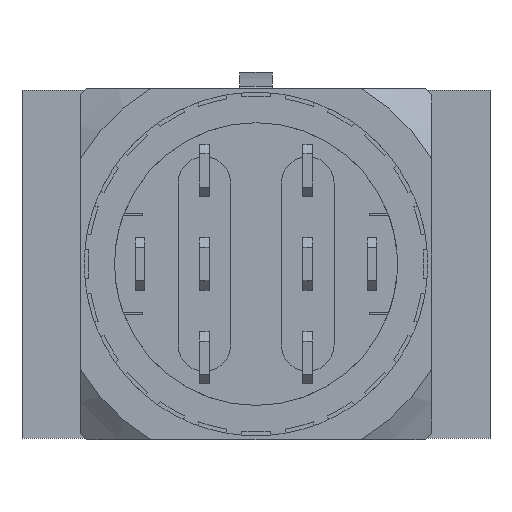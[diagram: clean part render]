
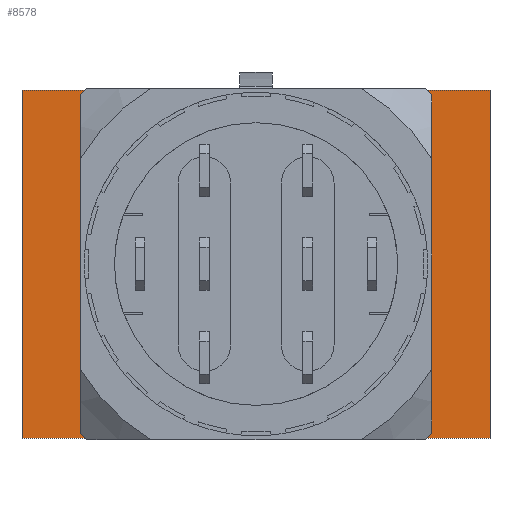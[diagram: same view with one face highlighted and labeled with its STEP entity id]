
A CAD part, front view. The second image highlights one B-rep face of the part: STEP entity #8578.
In plain terms, the highlighted planar face has unit normal (0, -1, 0).
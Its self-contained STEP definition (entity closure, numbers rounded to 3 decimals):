
#2 = CIRCLE ( 'NONE', #9218, 8.65 ) ;
#158 = CIRCLE ( 'NONE', #9079, 8.65 ) ;
#387 = EDGE_CURVE ( 'NONE', #1235, #1215, #3080, .T. ) ;
#389 = EDGE_CURVE ( 'NONE', #1275, #1235, #3086, .T. ) ;
#392 = EDGE_CURVE ( 'NONE', #1216, #1275, #3095, .T. ) ;
#396 = EDGE_CURVE ( 'NONE', #1215, #1216, #3107, .T. ) ;
#433 = EDGE_CURVE ( 'NONE', #1270, #1334, #158, .T. ) ;
#1215 = VERTEX_POINT ( 'NONE', #3628 ) ;
#1216 = VERTEX_POINT ( 'NONE', #3629 ) ;
#1235 = VERTEX_POINT ( 'NONE', #3648 ) ;
#1270 = VERTEX_POINT ( 'NONE', #3683 ) ;
#1275 = VERTEX_POINT ( 'NONE', #3688 ) ;
#1334 = VERTEX_POINT ( 'NONE', #3747 ) ;
#1920 = ORIENTED_EDGE ( 'NONE', *, *, #392, .F. ) ;
#1921 = ORIENTED_EDGE ( 'NONE', *, *, #433, .T. ) ;
#1922 = ORIENTED_EDGE ( 'NONE', *, *, #7024, .T. ) ;
#1923 = ORIENTED_EDGE ( 'NONE', *, *, #396, .F. ) ;
#1924 = ORIENTED_EDGE ( 'NONE', *, *, #387, .F. ) ;
#1925 = ORIENTED_EDGE ( 'NONE', *, *, #389, .F. ) ;
#3080 = LINE ( 'NONE', #3081, #9148 ) ;
#3081 = CARTESIAN_POINT ( 'NONE',  ( -12., 18., 8.925 ) ) ;
#3082 = DIRECTION ( 'NONE',  ( 1., 0., 0. ) ) ;
#3086 = LINE ( 'NONE', #3087, #9149 ) ;
#3087 = CARTESIAN_POINT ( 'NONE',  ( -12., 18., 8.925 ) ) ;
#3088 = DIRECTION ( 'NONE',  ( 0., 0., 1. ) ) ;
#3095 = LINE ( 'NONE', #3096, #9022 ) ;
#3096 = CARTESIAN_POINT ( 'NONE',  ( -12., 18., -8.925 ) ) ;
#3097 = DIRECTION ( 'NONE',  ( -1., 0., 0. ) ) ;
#3107 = LINE ( 'NONE', #3108, #9026 ) ;
#3108 = CARTESIAN_POINT ( 'NONE',  ( 12., 18., 8.925 ) ) ;
#3109 = DIRECTION ( 'NONE',  ( 0., 0., -1. ) ) ;
#3184 = CARTESIAN_POINT ( 'NONE',  ( 0., 18., 0. ) ) ;
#3191 = DIRECTION ( 'NONE',  ( 0., 1., 0. ) ) ;
#3192 = DIRECTION ( 'NONE',  ( -1., 0., 0. ) ) ;
#3628 = CARTESIAN_POINT ( 'NONE',  ( 12., 18., 8.925 ) ) ;
#3629 = CARTESIAN_POINT ( 'NONE',  ( 12., 18., -8.925 ) ) ;
#3648 = CARTESIAN_POINT ( 'NONE',  ( -12., 18., 8.925 ) ) ;
#3683 = CARTESIAN_POINT ( 'NONE',  ( -8.65, 18., 0. ) ) ;
#3688 = CARTESIAN_POINT ( 'NONE',  ( -12., 18., -8.925 ) ) ;
#3747 = CARTESIAN_POINT ( 'NONE',  ( 8.65, 18., 0. ) ) ;
#4286 = CARTESIAN_POINT ( 'NONE',  ( 0., 18., 0. ) ) ;
#4287 = DIRECTION ( 'NONE',  ( 0., 1., 0. ) ) ;
#4288 = DIRECTION ( 'NONE',  ( -1., 0., 0. ) ) ;
#5620 = PLANE ( 'NONE',  #8898 ) ;
#5621 = CARTESIAN_POINT ( 'NONE',  ( 0., 18., 0. ) ) ;
#5622 = DIRECTION ( 'NONE',  ( 0., -1., 0. ) ) ;
#5623 = DIRECTION ( 'NONE',  ( 0., 0., -1. ) ) ;
#7024 = EDGE_CURVE ( 'NONE', #1334, #1270, #2, .T. ) ;
#8093 = EDGE_LOOP ( 'NONE', ( #1921, #1922 ) ) ;
#8094 = EDGE_LOOP ( 'NONE', ( #1923, #1924, #1925, #1920 ) ) ;
#8578 = ADVANCED_FACE ( 'NONE', ( #8720, #8718 ), #5620, .T. ) ;
#8718 = FACE_OUTER_BOUND ( 'NONE', #8094, .T. ) ;
#8720 = FACE_BOUND ( 'NONE', #8093, .T. ) ;
#8898 = AXIS2_PLACEMENT_3D ( 'NONE', #5621, #5622, #5623 ) ;
#9022 = VECTOR ( 'NONE', #3097, 1000. ) ;
#9026 = VECTOR ( 'NONE', #3109, 1000. ) ;
#9079 = AXIS2_PLACEMENT_3D ( 'NONE', #3184, #3191, #3192 ) ;
#9148 = VECTOR ( 'NONE', #3082, 1000. ) ;
#9149 = VECTOR ( 'NONE', #3088, 1000. ) ;
#9218 = AXIS2_PLACEMENT_3D ( 'NONE', #4286, #4287, #4288 ) ;
